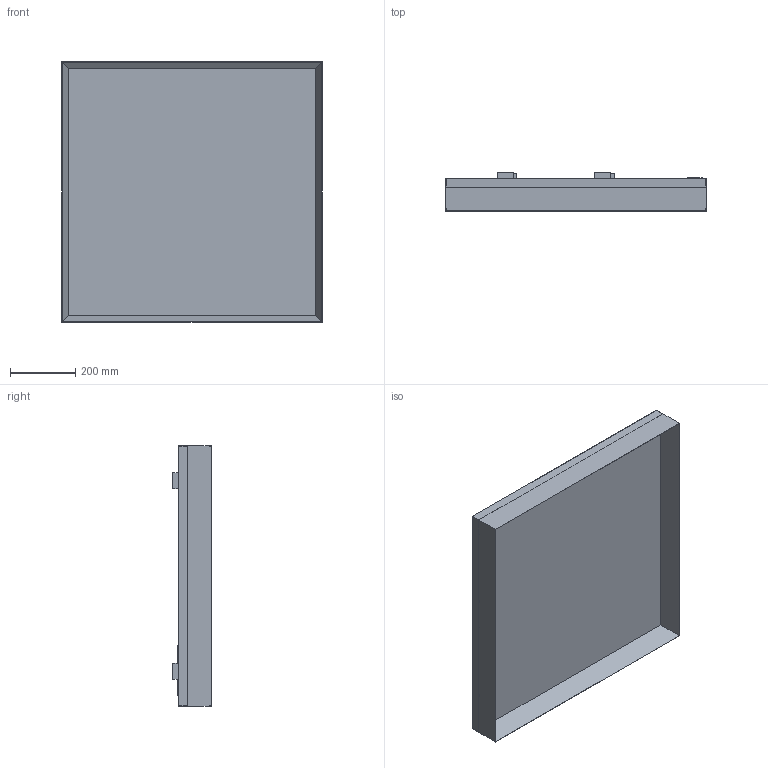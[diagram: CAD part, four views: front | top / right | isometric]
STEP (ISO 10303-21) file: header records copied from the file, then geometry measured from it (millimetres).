
FILE_DESCRIPTION((''),'2;1');
FILE_NAME('PROFILO_800_Q','2026-03-02T08:25:37',('Minervini'),(''),'CREO PARAMETRIC BY PTC INC, 2025010','CREO PARAMETRIC BY PTC INC, 2025010','');
FILE_SCHEMA(('AUTOMOTIVE_DESIGN { 1 0 10303 214 1 1 1 1 }'));
Length unit declared in the file: millimetre
Products named in the file (1): PROFILO_800_Q
Bounding box: 800 x 117.38 x 800 mm (x, y, z)
Surface area: 2692158.3 mm2 (no closed solid volume)
Topology: 0 solids, 14 shells, 40 faces, 389 edges, 360 vertices
Faces by surface type: plane 40
Entity records: 5078 total; most frequent: CARTESIAN_POINT 2149, DIRECTION 528, ORIENTED_EDGE 434, EDGE_CURVE 389, VERTEX_POINT 360, VECTOR 266, LINE 266, COLOUR_RGB 174
